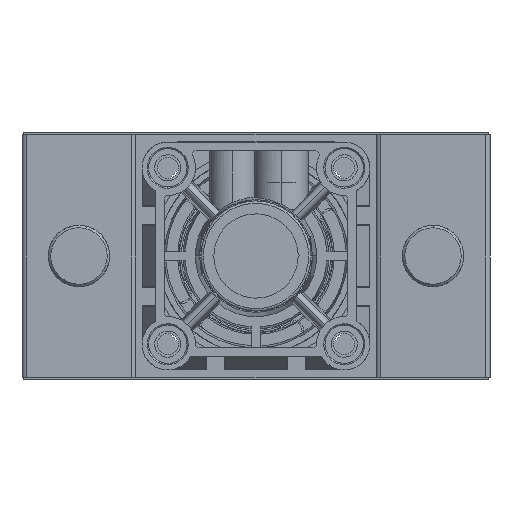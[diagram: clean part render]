
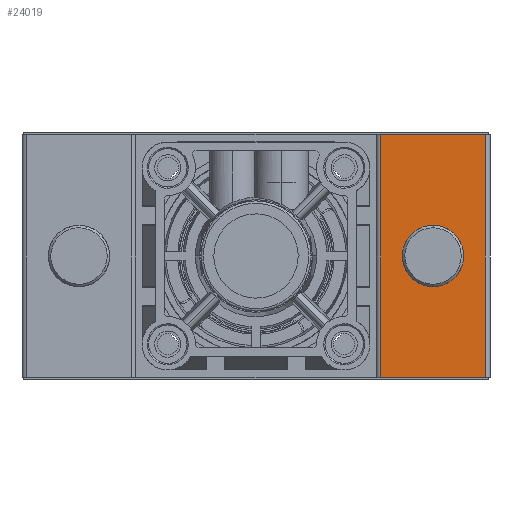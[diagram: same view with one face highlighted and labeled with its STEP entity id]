
A CAD part, front view. The second image highlights one B-rep face of the part: STEP entity #24019.
In plain terms, the highlighted planar face has unit normal (0, -1, 0).
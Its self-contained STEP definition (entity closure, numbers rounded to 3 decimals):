
#435 = ORIENTED_EDGE ( 'NONE', *, *, #49748, .F. ) ;
#2482 = DIRECTION ( 'NONE',  ( 0., -1., 0. ) ) ;
#3434 = ORIENTED_EDGE ( 'NONE', *, *, #19398, .T. ) ;
#5229 = VERTEX_POINT ( 'NONE', #17265 ) ;
#6575 = LINE ( 'NONE', #7358, #8965 ) ;
#7020 = CARTESIAN_POINT ( 'NONE',  ( 146.5, -190., 99. ) ) ;
#7358 = CARTESIAN_POINT ( 'NONE',  ( 189., -190., 99. ) ) ;
#7562 = CARTESIAN_POINT ( 'NONE',  ( 189., -190., 99. ) ) ;
#7844 = VECTOR ( 'NONE', #30737, 1000. ) ;
#8777 = CARTESIAN_POINT ( 'NONE',  ( 146.5, -190., 0. ) ) ;
#8965 = VECTOR ( 'NONE', #30503, 1000. ) ;
#9679 = CARTESIAN_POINT ( 'NONE',  ( 146.5, -190., 99. ) ) ;
#9693 = FACE_OUTER_BOUND ( 'NONE', #36048, .T. ) ;
#9905 = VERTEX_POINT ( 'NONE', #43153 ) ;
#9987 = ORIENTED_EDGE ( 'NONE', *, *, #47721, .F. ) ;
#10088 = DIRECTION ( 'NONE',  ( 0., 1., 0. ) ) ;
#12624 = ORIENTED_EDGE ( 'NONE', *, *, #25288, .F. ) ;
#13647 = CIRCLE ( 'NONE', #45038, 12.5 ) ;
#13714 = EDGE_LOOP ( 'NONE', ( #33863, #435 ) ) ;
#15598 = VERTEX_POINT ( 'NONE', #44019 ) ;
#16637 = LINE ( 'NONE', #9679, #37168 ) ;
#16806 = DIRECTION ( 'NONE',  ( 1., 0., 0. ) ) ;
#17265 = CARTESIAN_POINT ( 'NONE',  ( 167.75, -190., 62. ) ) ;
#17639 = DIRECTION ( 'NONE',  ( 0., 0., -1. ) ) ;
#19252 = EDGE_CURVE ( 'NONE', #33880, #9905, #48689, .T. ) ;
#19398 = EDGE_CURVE ( 'NONE', #47672, #33880, #16637, .T. ) ;
#20014 = FACE_BOUND ( 'NONE', #13714, .T. ) ;
#20552 = CARTESIAN_POINT ( 'NONE',  ( 189., -190., 0. ) ) ;
#21511 = DIRECTION ( 'NONE',  ( 0., -1., 0. ) ) ;
#22354 = CARTESIAN_POINT ( 'NONE',  ( 189., -190., 99. ) ) ;
#22612 = AXIS2_PLACEMENT_3D ( 'NONE', #44665, #21511, #48553 ) ;
#24019 = ADVANCED_FACE ( 'NONE', ( #20014, #9693 ), #33259, .F. ) ;
#25288 = EDGE_CURVE ( 'NONE', #34952, #9905, #38654, .T. ) ;
#25512 = CARTESIAN_POINT ( 'NONE',  ( 189., -190., 99. ) ) ;
#25619 = CARTESIAN_POINT ( 'NONE',  ( 167.75, -190., 49.5 ) ) ;
#27757 = ORIENTED_EDGE ( 'NONE', *, *, #19252, .T. ) ;
#29362 = VECTOR ( 'NONE', #16806, 1000. ) ;
#29495 = DIRECTION ( 'NONE',  ( 0., 0., -1. ) ) ;
#30118 = CIRCLE ( 'NONE', #22612, 12.5 ) ;
#30503 = DIRECTION ( 'NONE',  ( 1., 0., 0. ) ) ;
#30737 = DIRECTION ( 'NONE',  ( 0., 0., -1. ) ) ;
#33259 = PLANE ( 'NONE',  #38847 ) ;
#33441 = EDGE_CURVE ( 'NONE', #15598, #5229, #30118, .T. ) ;
#33863 = ORIENTED_EDGE ( 'NONE', *, *, #33441, .F. ) ;
#33880 = VERTEX_POINT ( 'NONE', #8777 ) ;
#34952 = VERTEX_POINT ( 'NONE', #22354 ) ;
#36048 = EDGE_LOOP ( 'NONE', ( #27757, #12624, #9987, #3434 ) ) ;
#37109 = DIRECTION ( 'NONE',  ( 0., 0., 1. ) ) ;
#37168 = VECTOR ( 'NONE', #17639, 1000. ) ;
#38654 = LINE ( 'NONE', #7562, #7844 ) ;
#38847 = AXIS2_PLACEMENT_3D ( 'NONE', #25512, #10088, #37109 ) ;
#43153 = CARTESIAN_POINT ( 'NONE',  ( 189., -190., 0. ) ) ;
#44019 = CARTESIAN_POINT ( 'NONE',  ( 167.75, -190., 37. ) ) ;
#44665 = CARTESIAN_POINT ( 'NONE',  ( 167.75, -190., 49.5 ) ) ;
#45038 = AXIS2_PLACEMENT_3D ( 'NONE', #25619, #2482, #29495 ) ;
#47672 = VERTEX_POINT ( 'NONE', #7020 ) ;
#47721 = EDGE_CURVE ( 'NONE', #47672, #34952, #6575, .T. ) ;
#48553 = DIRECTION ( 'NONE',  ( 0., 0., -1. ) ) ;
#48689 = LINE ( 'NONE', #20552, #29362 ) ;
#49748 = EDGE_CURVE ( 'NONE', #5229, #15598, #13647, .T. ) ;
